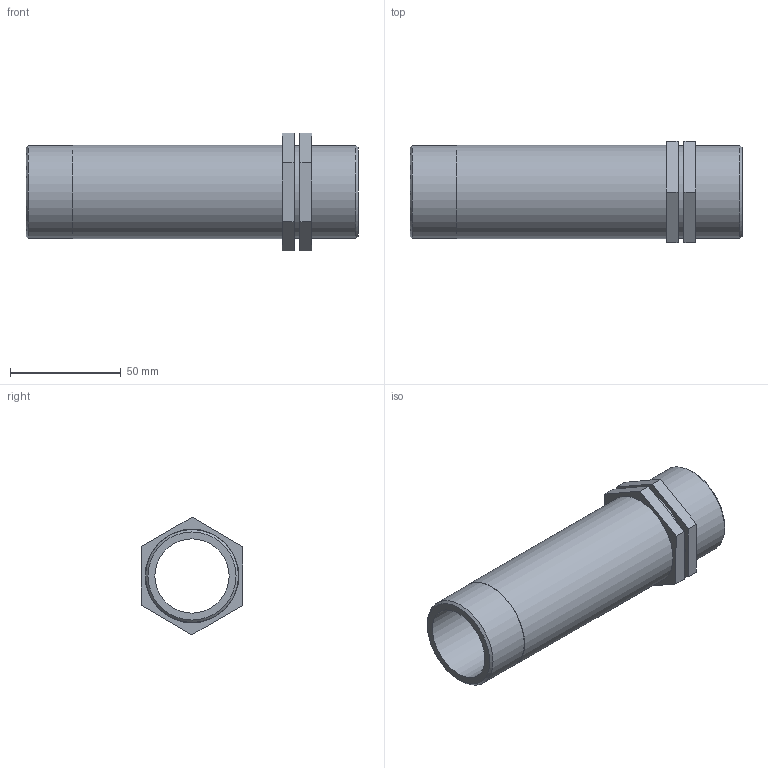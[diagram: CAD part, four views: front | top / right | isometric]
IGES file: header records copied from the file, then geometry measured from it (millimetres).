
Global section: file name: 051607013_0516070130A.ipt; native system: Autodesk Inventor 2015; preprocessor: unknown; author: KIM; date: 20170618.093324; units: millimetre
Bounding box: 150 x 46.08 x 53.12 mm (x, y, z)
Volume: 81092.9 mm3; surface area: 38574.8 mm2
Topology: 1 solids, 1 shells, 26 faces, 57 edges, 38 vertices
Faces by surface type: plane 19, cylinder 4, cone 2, revolution 1
Full cylindrical faces by diameter (mm): 41.91 x3, 42.227 x1
